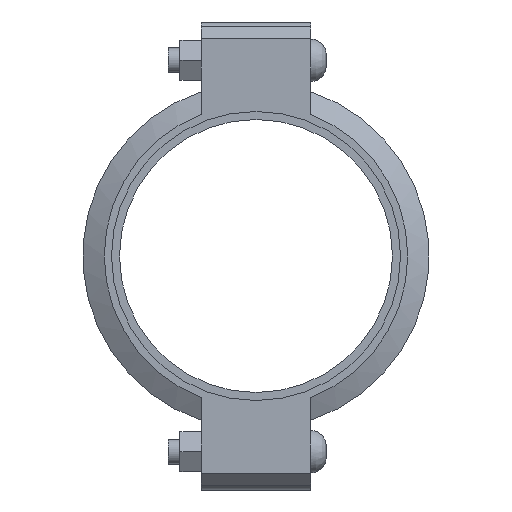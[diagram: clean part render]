
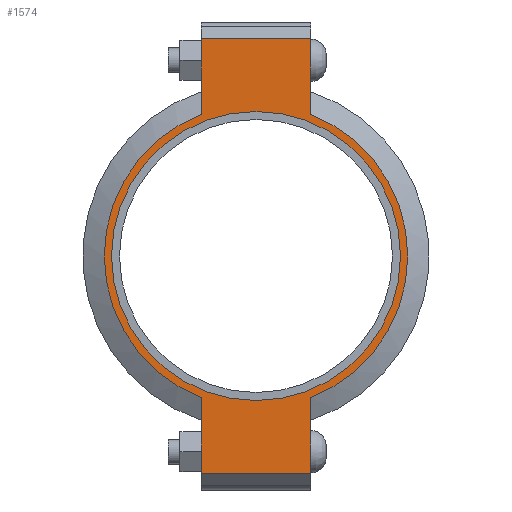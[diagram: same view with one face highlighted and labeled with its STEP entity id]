
A CAD part, left-side view. The second image highlights one B-rep face of the part: STEP entity #1574.
In plain terms, the highlighted planar face has unit normal (-1, 0, 0) as drawn and (0, 0, 1) by its records, which use the part's own axes.
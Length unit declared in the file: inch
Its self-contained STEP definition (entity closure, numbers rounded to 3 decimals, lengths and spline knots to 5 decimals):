
#198=LINE('',#2747,#291);
#206=LINE('',#2783,#299);
#213=LINE('',#2804,#306);
#222=LINE('',#2836,#315);
#223=LINE('',#2840,#316);
#224=LINE('',#2842,#317);
#291=VECTOR('',#2235,0.3937);
#299=VECTOR('',#2251,0.3937);
#306=VECTOR('',#2270,0.3937);
#315=VECTOR('',#2295,0.3937);
#316=VECTOR('',#2300,0.3937);
#317=VECTOR('',#2301,0.3937);
#373=FACE_BOUND('',#551,.T.);
#445=FACE_OUTER_BOUND('',#550,.T.);
#550=EDGE_LOOP('',(#1315,#1316,#1317,#1318,#1319,#1320,#1321,#1322));
#551=EDGE_LOOP('',(#1323));
#623=CIRCLE('',#1793,4.3125);
#649=CIRCLE('',#1852,4.53);
#650=CIRCLE('',#1853,4.53);
#715=VERTEX_POINT('',#2563);
#758=VERTEX_POINT('',#2744);
#759=VERTEX_POINT('',#2746);
#770=VERTEX_POINT('',#2778);
#771=VERTEX_POINT('',#2782);
#778=VERTEX_POINT('',#2801);
#779=VERTEX_POINT('',#2803);
#789=VERTEX_POINT('',#2839);
#790=VERTEX_POINT('',#2841);
#871=EDGE_CURVE('',#715,#715,#623,.T.);
#932=EDGE_CURVE('',#759,#758,#198,.T.);
#946=EDGE_CURVE('',#771,#770,#206,.T.);
#956=EDGE_CURVE('',#779,#778,#213,.T.);
#971=EDGE_CURVE('',#771,#758,#222,.T.);
#972=EDGE_CURVE('',#770,#779,#649,.T.);
#973=EDGE_CURVE('',#789,#778,#223,.T.);
#974=EDGE_CURVE('',#789,#790,#224,.T.);
#975=EDGE_CURVE('',#790,#759,#650,.T.);
#1315=ORIENTED_EDGE('',*,*,#971,.F.);
#1316=ORIENTED_EDGE('',*,*,#946,.T.);
#1317=ORIENTED_EDGE('',*,*,#972,.T.);
#1318=ORIENTED_EDGE('',*,*,#956,.T.);
#1319=ORIENTED_EDGE('',*,*,#973,.F.);
#1320=ORIENTED_EDGE('',*,*,#974,.T.);
#1321=ORIENTED_EDGE('',*,*,#975,.T.);
#1322=ORIENTED_EDGE('',*,*,#932,.T.);
#1323=ORIENTED_EDGE('',*,*,#871,.T.);
#1416=PLANE('',#1851);
#1574=ADVANCED_FACE('',(#445,#373),#1416,.T.);
#1793=AXIS2_PLACEMENT_3D('',#2565,#2111,#2112);
#1851=AXIS2_PLACEMENT_3D('',#2837,#2296,#2297);
#1852=AXIS2_PLACEMENT_3D('',#2838,#2298,#2299);
#1853=AXIS2_PLACEMENT_3D('',#2843,#2302,#2303);
#2111=DIRECTION('center_axis',(0.,0.,-1.));
#2112=DIRECTION('ref_axis',(-1.,0.,0.));
#2235=DIRECTION('',(-1.,0.,0.));
#2251=DIRECTION('',(1.,0.,0.));
#2270=DIRECTION('',(1.,0.,0.));
#2295=DIRECTION('',(0.,1.,0.));
#2296=DIRECTION('center_axis',(0.,0.,1.));
#2297=DIRECTION('ref_axis',(1.,0.,0.));
#2298=DIRECTION('center_axis',(0.,0.,1.));
#2299=DIRECTION('ref_axis',(-1.,0.,0.));
#2300=DIRECTION('',(0.,-1.,0.));
#2301=DIRECTION('',(-1.,0.,0.));
#2302=DIRECTION('center_axis',(0.,0.,1.));
#2303=DIRECTION('ref_axis',(-1.,0.,0.));
#2563=CARTESIAN_POINT('',(4.3125,0.,1.16));
#2565=CARTESIAN_POINT('Origin',(0.,0.,1.16));
#2744=CARTESIAN_POINT('',(-6.485,1.63,1.16));
#2746=CARTESIAN_POINT('',(-4.22658,1.63,1.16));
#2747=CARTESIAN_POINT('',(-6.985,1.63,1.16));
#2778=CARTESIAN_POINT('',(-4.22658,-1.63,1.16));
#2782=CARTESIAN_POINT('',(-6.485,-1.63,1.16));
#2783=CARTESIAN_POINT('',(6.985,-1.63,1.16));
#2801=CARTESIAN_POINT('',(6.485,-1.63,1.16));
#2803=CARTESIAN_POINT('',(4.22658,-1.63,1.16));
#2804=CARTESIAN_POINT('',(6.985,-1.63,1.16));
#2836=CARTESIAN_POINT('',(-6.485,0.815,1.16));
#2837=CARTESIAN_POINT('Origin',(0.,0.,
1.16));
#2838=CARTESIAN_POINT('Origin',(0.,0.,1.16));
#2839=CARTESIAN_POINT('',(6.485,1.63,1.16));
#2840=CARTESIAN_POINT('',(6.485,-0.815,1.16));
#2841=CARTESIAN_POINT('',(4.22658,1.63,1.16));
#2842=CARTESIAN_POINT('',(-6.985,1.63,1.16));
#2843=CARTESIAN_POINT('Origin',(0.,0.,1.16));
